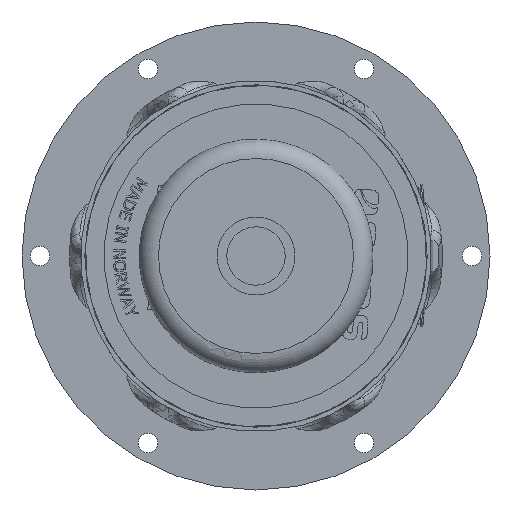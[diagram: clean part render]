
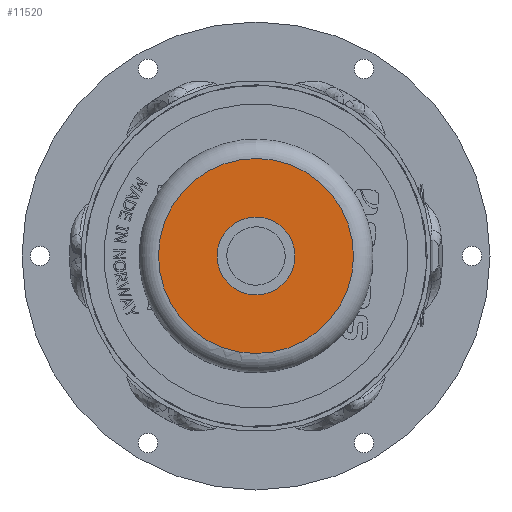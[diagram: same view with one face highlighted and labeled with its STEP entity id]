
A CAD part, front view. The second image highlights one B-rep face of the part: STEP entity #11520.
In plain terms, the highlighted planar face has unit normal (0, -1, 0).
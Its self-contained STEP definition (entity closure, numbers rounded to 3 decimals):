
#816=FACE_BOUND('',#2367,.T.);
#1119=PLANE('',#12329);
#1708=FACE_OUTER_BOUND('',#2366,.T.);
#2366=EDGE_LOOP('',(#10198));
#2367=EDGE_LOOP('',(#10199));
#4294=CIRCLE('',#12328,25.);
#4295=CIRCLE('',#12330,10.);
#5355=VERTEX_POINT('',#24218);
#5356=VERTEX_POINT('',#24222);
#6983=EDGE_CURVE('',#5355,#5355,#4294,.T.);
#6984=EDGE_CURVE('',#5356,#5356,#4295,.T.);
#10198=ORIENTED_EDGE('',*,*,#6983,.F.);
#10199=ORIENTED_EDGE('',*,*,#6984,.T.);
#11520=ADVANCED_FACE('',(#1708,#816),#1119,.T.);
#12328=AXIS2_PLACEMENT_3D('',#24220,#14692,#14693);
#12329=AXIS2_PLACEMENT_3D('',#24221,#14694,#14695);
#12330=AXIS2_PLACEMENT_3D('',#24223,#14696,#14697);
#14692=DIRECTION('center_axis',(0.,1.,0.));
#14693=DIRECTION('ref_axis',(0.941,0.,0.339));
#14694=DIRECTION('center_axis',(0.,-1.,0.));
#14695=DIRECTION('ref_axis',(0.339,0.,-0.941));
#14696=DIRECTION('center_axis',(0.,1.,0.));
#14697=DIRECTION('ref_axis',(0.941,0.,0.339));
#24218=CARTESIAN_POINT('',(8.471,-33.9,-23.521));
#24220=CARTESIAN_POINT('Origin',(0.,-33.9,
0.));
#24221=CARTESIAN_POINT('Origin',(-23.521,-33.9,-8.471));
#24222=CARTESIAN_POINT('',(9.409,-33.9,3.388));
#24223=CARTESIAN_POINT('Origin',(0.,-33.9,
0.));
